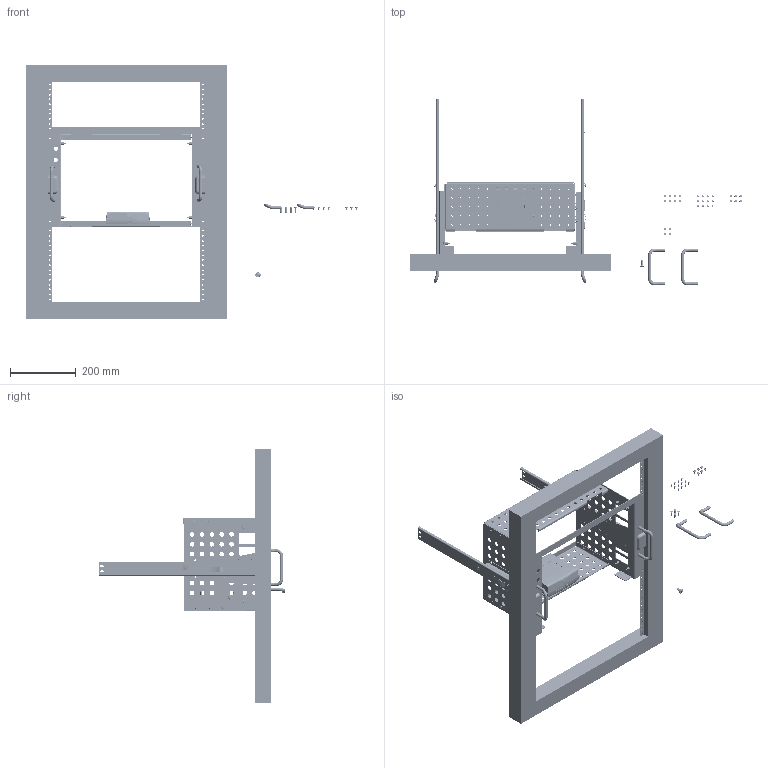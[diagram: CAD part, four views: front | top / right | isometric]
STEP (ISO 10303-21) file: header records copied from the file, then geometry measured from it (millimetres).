
FILE_DESCRIPTION((''),'2;1');
FILE_NAME('MODULE_ST-RACKMOUNT_TNS_ASM','2021-07-07T08:59:58',('mthomps2'),(''),'CREO PARAMETRIC BY PTC INC, 2019080','CREO PARAMETRIC BY PTC INC, 2019080','');
FILE_SCHEMA(('CONFIG_CONTROL_DESIGN','SHAPE_APPEARANCE_LAYERS_GROUPS'));
Length unit declared in the file: inch
Products named in the file (91): MODULE_RACKMOUNT_SKEL_TNS; CABINET_RACK_HD; RACK_SLIDE_SKEL_R66; 351109500_RH_STATIONARY; 351_SPRING_STOP_1; 351_BUTTON_1; 351_SPRING_STOP_1FLAT; 351_STOP_ASSY_1_ASM; 351_STOP_PIN; 351109500_RH_STATIONARY_ASSY_ASM; 351109500_RH_INTERMEDIATE; 351109500_RH_CHASSIS; 351_SPRING_STOP_3; 351_BUTTON_3; 351_STOP_ASSY_3_ASM; 351109500_RH_CHASSIS_ASSY_ASM; RACK_SLIDE_R66_ASM; BRACKET_RIGHT_ST-RACKMOUNT_TNS; SO-84_1-10; BRKT_RACKSLIDE_ST-RACKMOUNT_TNS; CLS-M4-2; BRKT_RACKSLIDE_ST-RACKMOUNT_TNS_ASM; RIVET_2XFH_157-177_RANGE_LIB; PANEL_RIGHT_ST-RACKMOUNT_TNS_ASM; BRACKET_LEFT_ST-RACKMOUNT_TNS; SO-85_1-10; PANEL_LEFT_ST-RACKMOUNT_TNS_ASM; RACKMNT_HANDLE_HPP; SCREW_FH_10-32X50_POZ_SS_LK_LIB; SCREW_PH_M4X07X6_TX20_LIB; BRKT_SUPPORT_ST-RACKMOUNT_TNS; CLS-M3-2; BRKT_SUPPORT_ST-RACKMOUNT_TNS_ASM; PLATE_FILLER_ST-RACKMOUNT_TNS; MODULE_SKEL_GPIB_DONGLE_R66; LOC_DONGLE_R66; PCB_SKEL_GPIB_R66; PCB_GPIB_DONGLE_R66; CONN_USB-B_PBFREE_LIB; LIGHT_PIPE_R66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
Assembly tree (204 placements, depth 5):
  MODULE_ST-RACKMOUNT_TNS_ASM
    MODULE_RACKMOUNT_SKEL_TNS
    CABINET_RACK_HD
    RACK_SLIDE_R66_ASM  x2
      RACK_SLIDE_SKEL_R66
      351109500_RH_STATIONARY_ASSY_ASM
        351109500_RH_STATIONARY
        351_STOP_ASSY_1_ASM
          351_SPRING_STOP_1
          351_BUTTON_1
          351_SPRING_STOP_1FLAT
        351_STOP_PIN
      351109500_RH_INTERMEDIATE
      351109500_RH_CHASSIS_ASSY_ASM
        351109500_RH_CHASSIS
        351_STOP_ASSY_3_ASM
          351_SPRING_STOP_3
          351_BUTTON_3
    PANEL_RIGHT_ST-RACKMOUNT_TNS_ASM
      BRACKET_RIGHT_ST-RACKMOUNT_TNS
      SO-84_1-10  x4
      BRKT_RACKSLIDE_ST-RACKMOUNT_TNS_ASM
        BRKT_RACKSLIDE_ST-RACKMOUNT_TNS
        CLS-M4-2  x3
      RIVET_2XFH_157-177_RANGE_LIB  x10
    PANEL_LEFT_ST-RACKMOUNT_TNS_ASM
      BRACKET_LEFT_ST-RACKMOUNT_TNS
      SO-85_1-10  x4
      BRKT_RACKSLIDE_ST-RACKMOUNT_TNS_ASM
        BRKT_RACKSLIDE_ST-RACKMOUNT_TNS
        CLS-M4-2  x3
      RIVET_2XFH_157-177_RANGE_LIB  x10
    RACKMNT_HANDLE_HPP  x2
    SCREW_FH_10-32X50_POZ_SS_LK_LIB  x4
    SCREW_PH_M4X07X6_TX20_LIB  x6
    BRKT_SUPPORT_ST-RACKMOUNT_TNS_ASM  x2
      BRKT_SUPPORT_ST-RACKMOUNT_TNS
      CLS-M3-2
      RIVET_2XFH_157-177_RANGE_LIB
    PLATE_FILLER_ST-RACKMOUNT_TNS
    MODULE_GPIB_DONGLE_R66_ASM
      MODULE_SKEL_GPIB_DONGLE_R66
      LOC_DONGLE_R66
      PCB_GPIB_R66_ASM
        PCB_SKEL_GPIB_R66
        PCB_GPIB_DONGLE_R66
        CONN_USB-B_PBFREE_LIB
        LIGHT_PIPE_R66  x3
        LED_GREEN_SMT_0603_LIB  x3
        CONN_2X24_GPIB_TH_F_PB-FREE_LIB
        CONN_POWER_DC_JACK_TH_F_RA_LIB
        CONN_1X4_USB-A_F_TH_LIB
        MH315C150  x2
        MH315C169  x2
        CONN_SAMTEC_2X15_MALE_050_R66
        CONN_3POGO_GENERIC_VPI_ASM
          BRACKET_3POGO_VPI
          CONN_POGO_PIN_VPI  x3
          SVPIPOGO3P2MTG123C
          SVPIPOGO3P456B
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Bounding box: 1008.55 x 566.34 x 769.87 mm (x, y, z)
Volume: 6925670.9 mm3; surface area: 1840079.2 mm2
Topology: 192 solids, 206 shells, 8629 faces, 21911 edges, 13874 vertices
Faces by surface type: plane 4333, cylinder 3107, cone 561, torus 288, bspline 260, extrusion 44, sphere 36
Entity records: 193457 total; most frequent: CARTESIAN_POINT 48473, ORIENTED_EDGE 23826, DIRECTION 23585, EDGE_CURVE 11917, PRESENTATION_STYLE_ASSIGNMENT 8146, STYLED_ITEM 8146, AXIS2_PLACEMENT_3D 8049, VERTEX_POINT 7599
